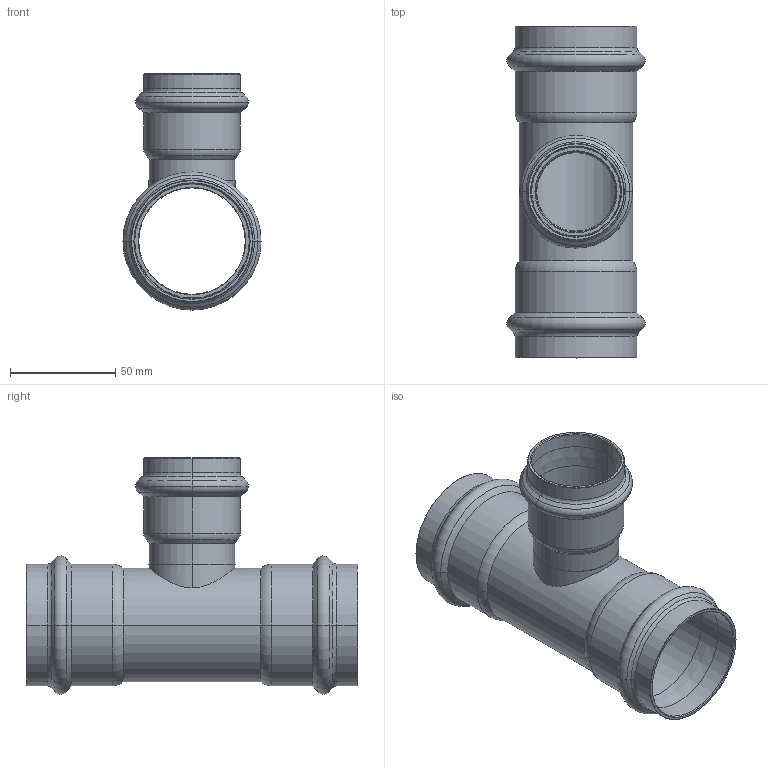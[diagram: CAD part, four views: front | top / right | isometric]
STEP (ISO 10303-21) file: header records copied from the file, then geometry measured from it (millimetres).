
FILE_DESCRIPTION(('CoCreate Modeling STEP Export'),'2;1');
FILE_NAME('8130RVW544254.stp','2013-01-31T14:47:35',(''),(''),'CoCreate Modeling STEP processor for AP214 (Solid Model)','CoCreate Modeling 17.00A 17-Jun-2010 (C) Parametric Technology GmbH','');
FILE_SCHEMA(('AUTOMOTIVE_DESIGN { 1 0 10303 214 1 1 1 1 }'));
Length unit declared in the file: millimetre
Products named in the file (1): 8130RVW544254
Bounding box: 65.68 x 157.73 x 112.33 mm (x, y, z)
Volume: 71470.7 mm3; surface area: 71521.5 mm2
Topology: 1 solids, 1 shells, 130 faces, 268 edges, 148 vertices
Faces by surface type: cylinder 42, torus 38, cone 38, plane 10, bspline 2
Entity records: 5840 total; most frequent: CARTESIAN_POINT 3503, ORIENTED_EDGE 536, DIRECTION 430, EDGE_CURVE 268, AXIS2_PLACEMENT_3D 175, VERTEX_POINT 148, EDGE_LOOP 142, FACE_OUTER_BOUND 130
